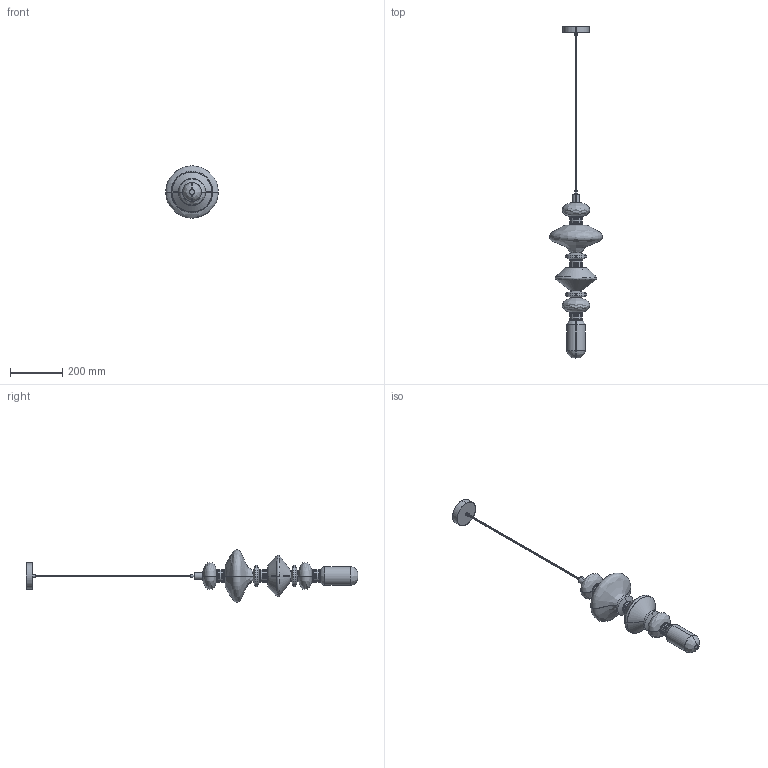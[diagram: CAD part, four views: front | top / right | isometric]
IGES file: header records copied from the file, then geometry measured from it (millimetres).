
Start section: SolidWorks IGES file using analytic representation for surfaces
Global section: file name: F:\燠隴矨\3D\2024-6堎\Ballet Pendant Lamp-model E.IGS; native system: SolidWorks 2022; preprocessor: SolidWorks 2022; author: MyPC; date: 240611.212259; units: millimetre
Bounding box: 201.54 x 1268.4 x 201.41 mm (x, y, z)
Surface area: 321317 mm2 (no closed solid volume)
Topology: 0 solids, 0 shells, 382 faces, 7972 edges, 7958 vertices
Faces by surface type: bspline 224, revolution 158
